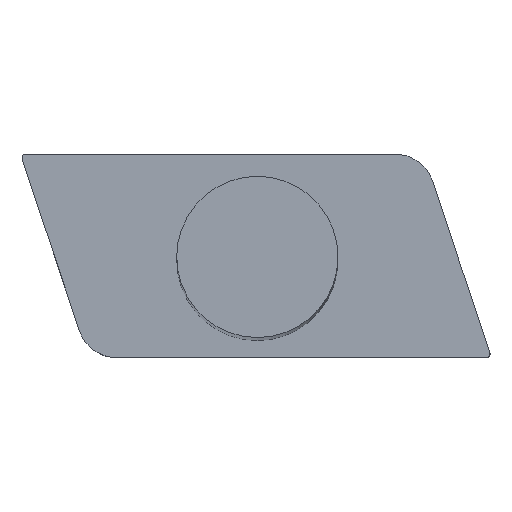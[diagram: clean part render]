
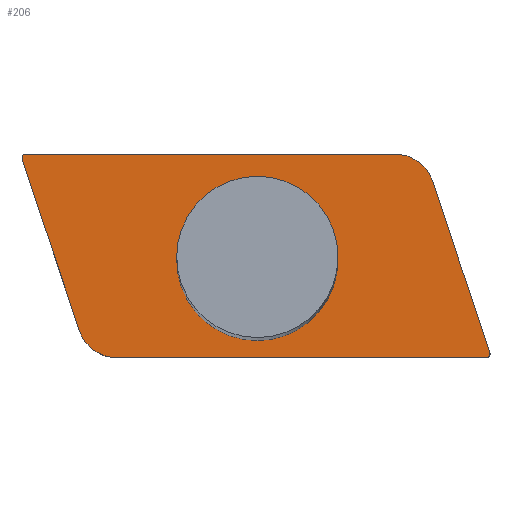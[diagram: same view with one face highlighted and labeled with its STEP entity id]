
A CAD part, top view. The second image highlights one B-rep face of the part: STEP entity #206.
In plain terms, the highlighted planar face has unit normal (0, 0, 1).
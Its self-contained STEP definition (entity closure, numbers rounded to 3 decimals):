
#15=FACE_BOUND('',#46,.T.);
#21=PLANE('',#248);
#33=FACE_OUTER_BOUND('',#45,.T.);
#45=EDGE_LOOP('',(#174,#175,#176,#177,#178,#179,#180,#181));
#46=EDGE_LOOP('',(#182));
#49=LINE('',#324,#66);
#54=LINE('',#338,#71);
#58=LINE('',#350,#75);
#62=LINE('',#362,#79);
#66=VECTOR('',#263,10.);
#71=VECTOR('',#276,10.);
#75=VECTOR('',#288,10.);
#79=VECTOR('',#300,10.);
#83=CIRCLE('',#230,4.);
#84=CIRCLE('',#234,0.2);
#86=CIRCLE('',#238,2.);
#88=CIRCLE('',#242,0.2);
#90=CIRCLE('',#246,2.);
#93=VERTEX_POINT('',#317);
#94=VERTEX_POINT('',#322);
#95=VERTEX_POINT('',#323);
#98=VERTEX_POINT('',#331);
#100=VERTEX_POINT('',#337);
#102=VERTEX_POINT('',#343);
#104=VERTEX_POINT('',#349);
#106=VERTEX_POINT('',#355);
#108=VERTEX_POINT('',#361);
#112=EDGE_CURVE('',#93,#93,#83,.T.);
#113=EDGE_CURVE('',#94,#95,#49,.T.);
#117=EDGE_CURVE('',#95,#98,#84,.T.);
#120=EDGE_CURVE('',#98,#100,#54,.T.);
#123=EDGE_CURVE('',#100,#102,#86,.T.);
#126=EDGE_CURVE('',#102,#104,#58,.T.);
#129=EDGE_CURVE('',#104,#106,#88,.T.);
#132=EDGE_CURVE('',#106,#108,#62,.T.);
#135=EDGE_CURVE('',#108,#94,#90,.T.);
#174=ORIENTED_EDGE('',*,*,#113,.F.);
#175=ORIENTED_EDGE('',*,*,#135,.F.);
#176=ORIENTED_EDGE('',*,*,#132,.F.);
#177=ORIENTED_EDGE('',*,*,#129,.F.);
#178=ORIENTED_EDGE('',*,*,#126,.F.);
#179=ORIENTED_EDGE('',*,*,#123,.F.);
#180=ORIENTED_EDGE('',*,*,#120,.F.);
#181=ORIENTED_EDGE('',*,*,#117,.F.);
#182=ORIENTED_EDGE('',*,*,#112,.T.);
#206=ADVANCED_FACE('',(#33,#15),#21,.T.);
#230=AXIS2_PLACEMENT_3D('',#319,#257,#258);
#234=AXIS2_PLACEMENT_3D('',#332,#269,#270);
#238=AXIS2_PLACEMENT_3D('',#344,#281,#282);
#242=AXIS2_PLACEMENT_3D('',#356,#293,#294);
#246=AXIS2_PLACEMENT_3D('',#367,#305,#306);
#248=AXIS2_PLACEMENT_3D('',#369,#309,#310);
#257=DIRECTION('center_axis',(0.,0.,-1.));
#258=DIRECTION('ref_axis',(-1.,0.,0.));
#263=DIRECTION('',(-0.316,0.949,0.));
#269=DIRECTION('center_axis',(0.,0.,-1.));
#270=DIRECTION('ref_axis',(0.,-1.,0.));
#276=DIRECTION('',(1.,0.,0.));
#281=DIRECTION('center_axis',(0.,0.,-1.));
#282=DIRECTION('ref_axis',(-0.949,-0.316,0.));
#288=DIRECTION('',(0.316,-0.949,0.));
#293=DIRECTION('center_axis',(0.,0.,-1.));
#294=DIRECTION('ref_axis',(0.,1.,0.));
#300=DIRECTION('',(-1.,0.,0.));
#305=DIRECTION('center_axis',(0.,0.,-1.));
#306=DIRECTION('ref_axis',(0.949,0.316,0.));
#309=DIRECTION('center_axis',(0.,0.,1.));
#310=DIRECTION('ref_axis',(1.,0.,0.));
#317=CARTESIAN_POINT('',(5.425,4.005,5.));
#319=CARTESIAN_POINT('Origin',(1.425,4.005,5.));
#322=CARTESIAN_POINT('',(-7.412,0.517,5.));
#323=CARTESIAN_POINT('',(-10.237,8.991,5.));
#324=CARTESIAN_POINT('',(-7.412,0.517,5.));
#331=CARTESIAN_POINT('',(-10.047,9.255,5.));
#332=CARTESIAN_POINT('Origin',(-10.047,9.055,5.));
#337=CARTESIAN_POINT('',(8.234,9.255,5.));
#338=CARTESIAN_POINT('',(-10.047,9.255,5.));
#343=CARTESIAN_POINT('',(10.131,7.887,5.));
#344=CARTESIAN_POINT('Origin',(8.234,7.255,5.));
#349=CARTESIAN_POINT('',(12.956,-0.587,5.));
#350=CARTESIAN_POINT('',(10.131,7.887,5.));
#355=CARTESIAN_POINT('',(12.766,-0.85,5.));
#356=CARTESIAN_POINT('Origin',(12.766,-0.65,5.));
#361=CARTESIAN_POINT('',(-5.514,-0.85,5.));
#362=CARTESIAN_POINT('',(12.766,-0.85,5.));
#367=CARTESIAN_POINT('Origin',(-5.514,1.15,5.));
#369=CARTESIAN_POINT('Origin',(1.359,4.202,5.));
